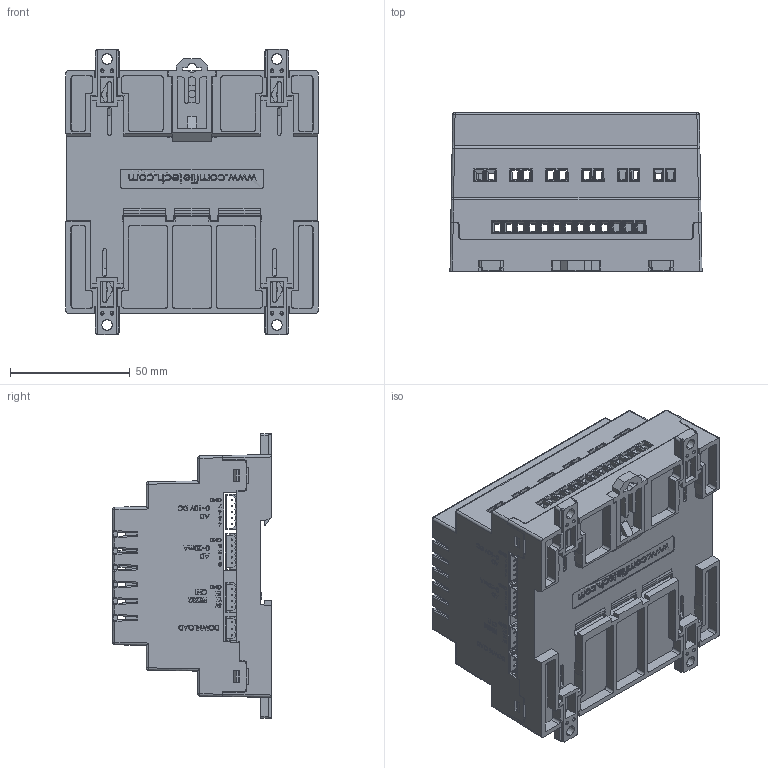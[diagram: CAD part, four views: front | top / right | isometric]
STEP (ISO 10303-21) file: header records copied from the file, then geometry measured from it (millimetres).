
FILE_DESCRIPTION (( 'STEP AP214' ), '1' );
FILE_NAME ('MSB632RA-DC_ASM.STEP', '2016-05-25T08:38:02', ( 'Registered User' ), ( 'Microsoft Corporation' ), 'SwSTEP 2.0', 'SolidWorks 2014', '' );
FILE_SCHEMA (( 'AUTOMOTIVE_DESIGN' ));
Length unit declared in the file: millimetre
Products named in the file (1): MSB632RA-DC_ASM
Bounding box: 105.36 x 66.41 x 119.16 mm (x, y, z)
Surface area: 108006.6 mm2 (no closed solid volume)
Topology: 0 solids, 374 shells, 3036 faces, 13453 edges, 10753 vertices
Faces by surface type: plane 2330, cylinder 343, bspline 220, cone 143
Entity records: 215469 total; most frequent: CARTESIAN_POINT 82138, ORIENTED_EDGE 19265, DIRECTION 16443, EDGE_CURVE 13453, VERTEX_POINT 10753, LINE 9267, VECTOR 9267, EDGE_LOOP 3767
